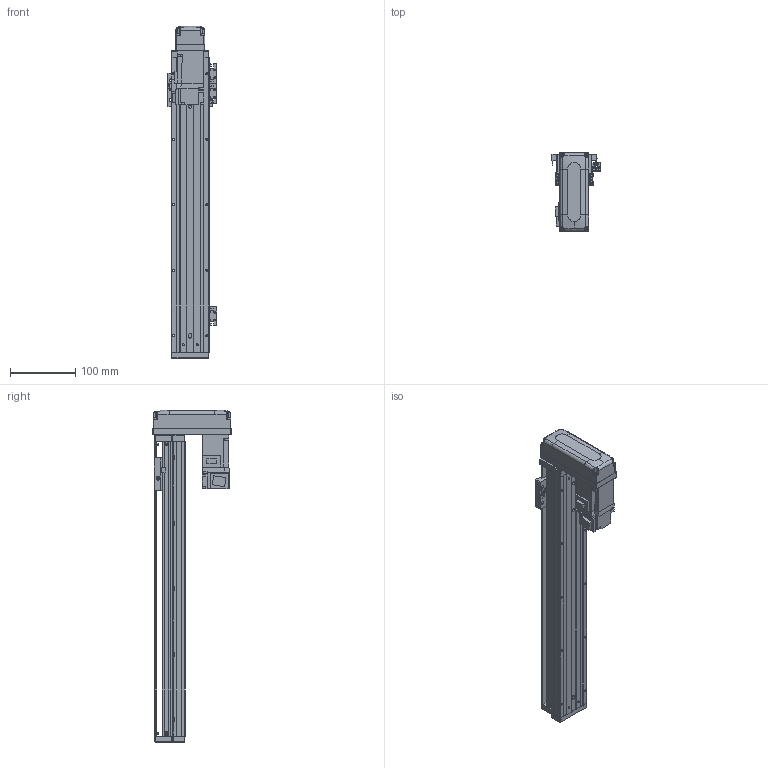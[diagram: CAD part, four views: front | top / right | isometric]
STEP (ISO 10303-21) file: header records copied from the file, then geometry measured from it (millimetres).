
FILE_DESCRIPTION (( 'STEP AP203' ), '1' );
FILE_NAME ('KTHA50-350-BM-M10-C4L.step', '2022-03-19T07:11:15', ( '微软用户' ), ( '微软中国' ), 'SwSTEP 2.0', 'SolidWorks 2020', '' );
FILE_SCHEMA (( 'CONFIG_CONTROL_DESIGN' ));
Length unit declared in the file: millimetre
Products named in the file (18): KTHA50-001_450; GBT 70.1-M3℅6; CTHA50-015-2_CTHA60-015-2; KTHA50-002; CTHA60-017; CTHA60-033; KTHA50-004; GBT 70.1-M4×12; GBT 70.1-M3×15; KTHA50-005; CTHA60-016; KTHA50-350-BM-M10-C4L; GB¨uT 70.2-M3¡Á6_M3¡Á6; CTHA60-021; EE_SX911P_R; GBT 70.3-M3℅6; GBT77-2000 M3×3; HG-KR13（三菱）
Assembly tree (53 placements, depth 2):
  KTHA50-350-BM-M10-C4L
    KTHA50-001_450
    KTHA50-002
    KTHA50-004
    KTHA50-005
    GB¨uT 70.2-M3¡Á6_M3¡Á6  x6
    EE_SX911P_R  x3
    GBT77-2000 M3×3  x6
    GBT 70.1-M3℅6  x6
    CTHA60-017  x3
    GBT 70.1-M4×12  x10
    CTHA60-016  x2
    CTHA60-021  x2
    GBT 70.3-M3℅6  x4
    HG-KR13（三菱）
    CTHA50-015-2_CTHA60-015-2
    CTHA60-033
    GBT 70.1-M3×15  x4
Bounding box: 75.22 x 120 x 507 mm (x, y, z)
Volume: 1107039.6 mm3; surface area: 271965 mm2
Topology: 56 solids, 56 shells, 2243 faces, 5295 edges, 3244 vertices
Faces by surface type: plane 1252, cylinder 544, cone 305, torus 100, bspline 26, sphere 16
Entity records: 37589 total; most frequent: CARTESIAN_POINT 7122, DIRECTION 5855, ORIENTED_EDGE 5602, EDGE_CURVE 2801, AXIS2_PLACEMENT_3D 1993, LINE 1869, VECTOR 1869, VERTEX_POINT 1758
